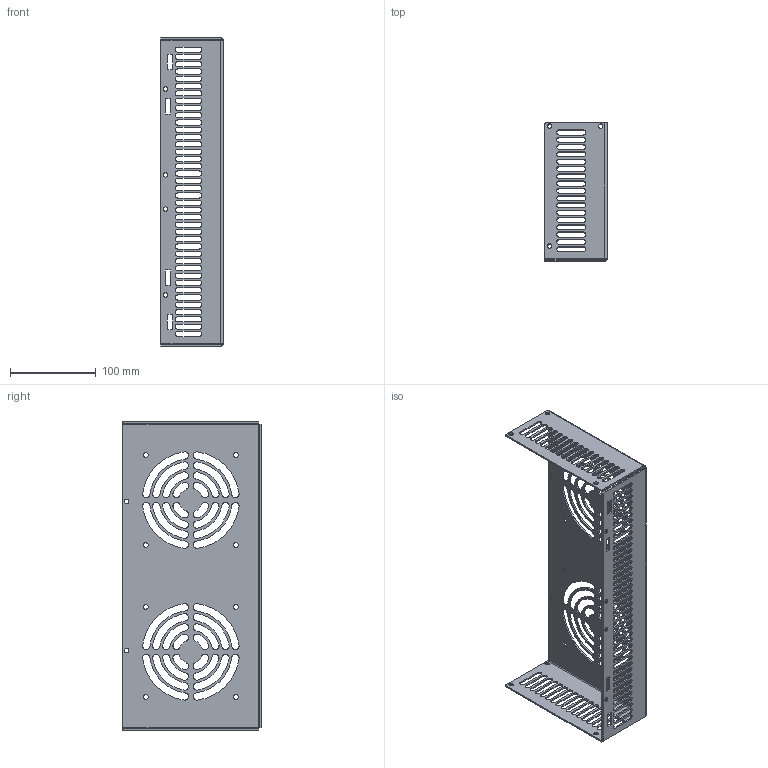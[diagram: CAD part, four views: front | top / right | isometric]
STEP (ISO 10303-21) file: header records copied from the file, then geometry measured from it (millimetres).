
FILE_DESCRIPTION (( 'STEP AP214' ), '1' );
FILE_NAME ('风扇面板-手持盾.STEP', '2026-09-29T00:41:50', ( '微软用户' ), ( '微软中国' ), 'SwSTEP 2.0', 'SolidWorks 2016', '' );
FILE_SCHEMA (( 'AUTOMOTIVE_DESIGN' ));
Length unit declared in the file: millimetre
Products named in the file (1): 瑞圮醱啣-忒厥嗎
Bounding box: 72.7 x 161.3 x 359.6 mm (x, y, z)
Volume: 139056.2 mm3; surface area: 173919.4 mm2
Topology: 1 solids, 1 shells, 634 faces, 1872 edges, 1240 vertices
Faces by surface type: cylinder 446, plane 188
Entity records: 22286 total; most frequent: DIRECTION 4034, CARTESIAN_POINT 3747, ORIENTED_EDGE 3744, EDGE_CURVE 1872, AXIS2_PLACEMENT_3D 1527, VERTEX_POINT 1240, VECTOR 980, LINE 980
